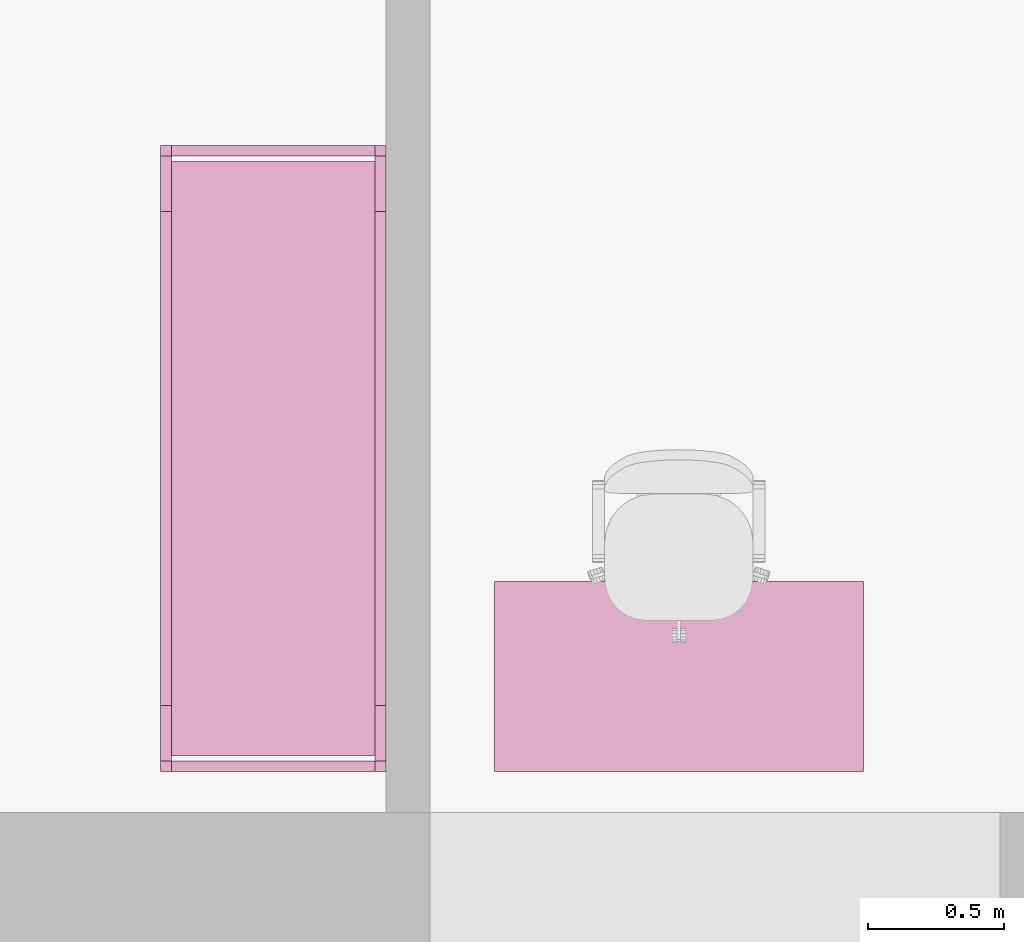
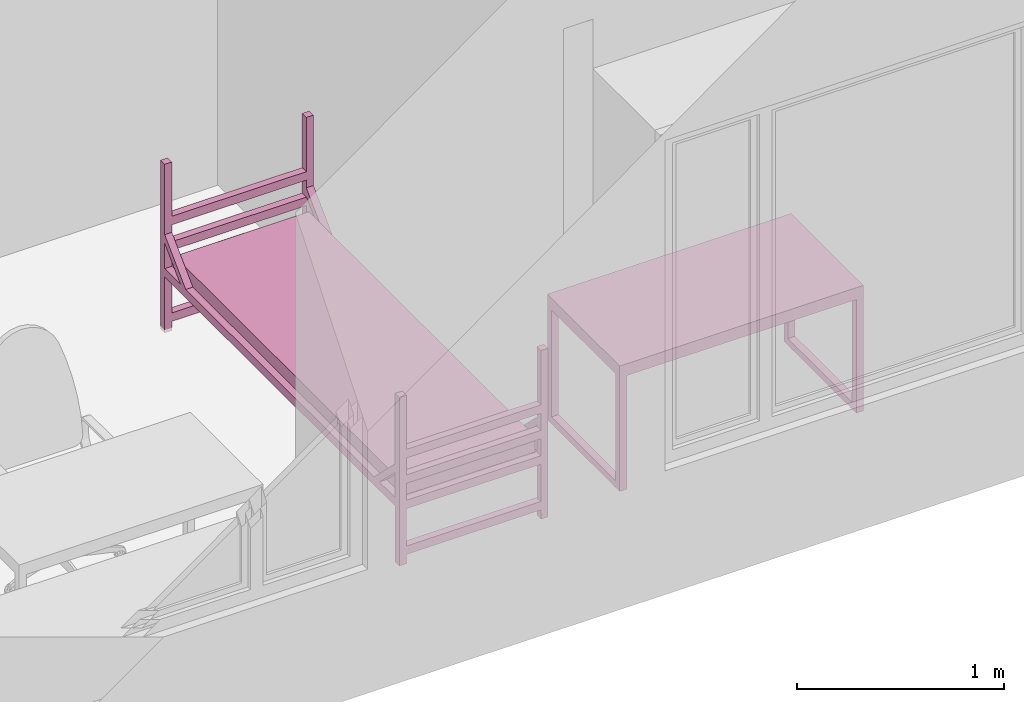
# One storey, part 30 of 48: 2 furnishings.
"""IFC2X3 building model written with IfcOpenShell, lengths in millimetres."""

from ifc_helpers import new_model, entity, si_unit, converted_unit, derived_unit, direction, frame, frame_2d, origin, place, context, subcontext, project, spatial, polyline, circle_curve, parameter, trimmed, segment, composite_curve, rectangle, outline, extrude, faceted_brep, source, transform, mapped, material, material_list, type_object, type_shapes, element, save


model = new_model("IFC2X3")

# Units and contexts
model_context = context("Model", 3, precision=0.01, world=origin(), true_north=direction((6.12303176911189e-17, 1.0)))
body_context = subcontext(model_context, "Body", "Model", "MODEL_VIEW")
ifc_project = project(units=[si_unit("LENGTHUNIT", "METRE", prefix="MILLI"), si_unit("AREAUNIT", "SQUARE_METRE"), si_unit("VOLUMEUNIT", "CUBIC_METRE"), converted_unit("PLANEANGLEUNIT", "DEGREE", entity("IfcRatioMeasure", 0.0174532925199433), si_unit("PLANEANGLEUNIT", "RADIAN"), dimensions=[0, 0, 0, 0, 0, 0, 0]), si_unit("MASSUNIT", "GRAM", prefix="KILO"), derived_unit("MASSDENSITYUNIT", [(si_unit("MASSUNIT", "GRAM", prefix="KILO"), 1), (si_unit("LENGTHUNIT", "METRE"), -3)]), si_unit("TIMEUNIT", "SECOND"), si_unit("FREQUENCYUNIT", "HERTZ"), si_unit("THERMODYNAMICTEMPERATUREUNIT", "DEGREE_CELSIUS"), derived_unit("THERMALTRANSMITTANCEUNIT", [(si_unit("MASSUNIT", "GRAM", prefix="KILO"), 1), (si_unit("THERMODYNAMICTEMPERATUREUNIT", "KELVIN"), -1), (si_unit("TIMEUNIT", "SECOND"), -3)]), derived_unit("VOLUMETRICFLOWRATEUNIT", [(si_unit("LENGTHUNIT", "METRE"), 3), (si_unit("TIMEUNIT", "SECOND"), -1)]), si_unit("ELECTRICCURRENTUNIT", "AMPERE"), si_unit("ELECTRICVOLTAGEUNIT", "VOLT"), si_unit("POWERUNIT", "WATT"), si_unit("FORCEUNIT", "NEWTON", prefix="KILO"), si_unit("ILLUMINANCEUNIT", "LUX"), si_unit("LUMINOUSFLUXUNIT", "LUMEN"), si_unit("LUMINOUSINTENSITYUNIT", "CANDELA"), derived_unit("USERDEFINED", [(si_unit("MASSUNIT", "GRAM", prefix="KILO"), -1), (si_unit("LENGTHUNIT", "METRE"), -2), (si_unit("TIMEUNIT", "SECOND"), 3), (si_unit("LUMINOUSFLUXUNIT", "LUMEN"), 1)]), derived_unit("LINEARVELOCITYUNIT", [(si_unit("LENGTHUNIT", "METRE"), 1), (si_unit("TIMEUNIT", "SECOND"), -1)]), si_unit("PRESSUREUNIT", "PASCAL"), derived_unit("USERDEFINED", [(si_unit("LENGTHUNIT", "METRE"), -2), (si_unit("MASSUNIT", "GRAM", prefix="KILO"), 1), (si_unit("TIMEUNIT", "SECOND"), -2)]), derived_unit("LINEARFORCEUNIT", [(si_unit("MASSUNIT", "GRAM", prefix="KILO"), 1), (si_unit("LENGTHUNIT", "METRE"), 1), (si_unit("TIMEUNIT", "SECOND"), -2), (si_unit("LENGTHUNIT", "METRE"), -1)]), derived_unit("PLANARFORCEUNIT", [(si_unit("MASSUNIT", "GRAM", prefix="KILO"), 1), (si_unit("LENGTHUNIT", "METRE"), 1), (si_unit("TIMEUNIT", "SECOND"), -2), (si_unit("LENGTHUNIT", "METRE"), -2)])], contexts=[model_context])

# Site, building, storey, space
site_placement = place(None, origin())
site = spatial("IfcSite", under=ifc_project, at=site_placement, Name="Default", CompositionType="ELEMENT")
building_placement = place(site_placement, origin())
building = spatial("IfcBuilding", under=site, at=building_placement, Name="SMA ARH", CompositionType="ELEMENT")
storey_placement = place(building_placement, frame((0.0, 0.0, 6600.0)))
storey = spatial("IfcBuildingStorey", under=building, at=storey_placement, Name="3 Korrus", CompositionType="ELEMENT", Elevation=6599.99999999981)
space_1_placement = place(storey_placement, origin())
space_1 = spatial("IfcSpace", under=storey, at=space_1_placement, Name="3-12", CompositionType="ELEMENT", InteriorOrExteriorSpace="INTERNAL")

# Furnishing
ifc_material_1 = material(Name="Madrats")
furniture_type_1 = type_object("IfcFurnitureType", Name="Kasarmu voodi ühekordne 2308x830:Kasarmu voodi ühekordne 2308x830", material=ifc_material_1)
shared_shape_1 = source(origin(), body_context, "Body", "SweptSolid", [
    extrude(rectangle(XDim=39.9999999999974, YDim=750.000000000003, at=frame_2d((-1.35003119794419e-13, -2.8421709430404e-14), x_axis=(1.0, 0.0))), frame((1.68638457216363, -1226.7969571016, 55.0), z_axis=(0.0, 0.0, 1.0), x_axis=(0.0, -1.0, 0.0)), (0.0, 0.0, 1.0), 49.9999999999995),
    extrude(rectangle(XDim=39.9999999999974, YDim=750.000000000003, at=frame_2d((-1.35003119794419e-13, -2.8421709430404e-14), x_axis=(1.0, 0.0))), frame((1.68638457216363, -1226.7969571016, 325.0), z_axis=(0.0, 0.0, 1.0), x_axis=(0.0, -1.0, 0.0)), (0.0, 0.0, 1.0), 49.9999999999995),
    extrude(rectangle(XDim=39.9999999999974, YDim=750.000000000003, at=frame_2d((-1.35003119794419e-13, -2.8421709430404e-14), x_axis=(1.0, 0.0))), frame((1.68638457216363, -1226.7969571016, 475.0), z_axis=(0.0, 0.0, 1.0), x_axis=(0.0, -1.0, 0.0)), (0.0, 0.0, 1.0), 49.9999999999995),
    extrude(rectangle(XDim=39.9999999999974, YDim=750.000000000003, at=frame_2d((-1.35003119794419e-13, -2.8421709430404e-14), x_axis=(1.0, 0.0))), frame((1.68638457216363, -1226.7969571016, 625.0), z_axis=(0.0, 0.0, 1.0), x_axis=(0.0, -1.0, 0.0)), (0.0, 0.0, 1.0), 50.0000000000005),
    extrude(rectangle(XDim=39.9999999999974, YDim=750.000000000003, at=frame_2d((1.35003119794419e-13, -2.8421709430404e-14), x_axis=(1.0, 0.0))), frame((1.68638457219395, 1041.2030428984, 55.0), z_axis=(0.0, 0.0, 1.0), x_axis=(0.0, -1.0, 0.0)), (0.0, 0.0, 1.0), 50.0000000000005),
    extrude(rectangle(XDim=39.9999999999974, YDim=750.000000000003, at=frame_2d((1.35003119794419e-13, -2.8421709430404e-14), x_axis=(1.0, 0.0))), frame((1.68638457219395, 1041.2030428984, 325.0), z_axis=(0.0, 0.0, 1.0), x_axis=(0.0, -1.0, 0.0)), (0.0, 0.0, 1.0), 50.0000000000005),
    extrude(rectangle(XDim=39.9999999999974, YDim=750.000000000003, at=frame_2d((1.35003119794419e-13, -2.8421709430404e-14), x_axis=(1.0, 0.0))), frame((1.68638457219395, 1041.2030428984, 475.0), z_axis=(0.0, 0.0, 1.0), x_axis=(0.0, -1.0, 0.0)), (0.0, 0.0, 1.0), 50.0000000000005),
    extrude(rectangle(XDim=39.9999999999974, YDim=750.000000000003, at=frame_2d((1.35003119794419e-13, -2.8421709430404e-14), x_axis=(1.0, 0.0))), frame((1.68638457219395, 1041.2030428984, 625.0), z_axis=(0.0, 0.0, 1.0), x_axis=(0.0, -1.0, 0.0)), (0.0, 0.0, 1.0), 49.9999999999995),
    extrude(outline(composite_curve([segment(trimmed(circle_curve(frame_2d((1085.0, -40.0), x_axis=(1.0, 0.0)), 10.0), [parameter(270.0)], [parameter(0.0)], True, "PARAMETER"), True, "CONTINUOUS"), segment(polyline([(1095.0, -40.0), (1095.0, 40.0)]), True, "CONTINUOUS"), segment(trimmed(circle_curve(frame_2d((1085.0, 40.0), x_axis=(1.0, 0.0)), 10.0), [parameter(0.0)], [parameter(90.0000000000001)], True, "PARAMETER"), True, "CONTINUOUS"), segment(polyline([(1085.0, 50.0), (-1085.0, 50.0)]), True, "CONTINUOUS"), segment(trimmed(circle_curve(frame_2d((-1085.0, 40.0), x_axis=(1.0, 0.0)), 10.0), [parameter(90.0000000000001)], [parameter(180.0)], True, "PARAMETER"), True, "CONTINUOUS"), segment(polyline([(-1095.0, 40.0), (-1095.0, -40.0)]), True, "CONTINUOUS"), segment(trimmed(circle_curve(frame_2d((-1085.0, -40.0), x_axis=(1.0, 0.0)), 10.0), [parameter(180.0)], [parameter(270.0)], True, "PARAMETER"), True, "CONTINUOUS"), segment(polyline([(-1085.0, -50.0), (1085.0, -50.0)]), True, "CONTINUOUS")], self_intersect=False)), frame((-373.313615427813, -92.7969571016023, 405.0), z_axis=(1.0, 0.0, 0.0), x_axis=(0.0, -1.0, 0.0)), (0.0, 0.0, 1.0), 750.000000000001),
    extrude(outline(polyline([(-1114.0, -100.0), (1114.0, -100.0), (1114.0, -50.0), (961.59199141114, -50.0), (1114.0, 100.0), (1114.0, 150.0), (910.789321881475, -50.0), (-910.789321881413, -50.0), (-1114.0, 150.0), (-1114.0, 100.0), (-961.591991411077, -50.0), (-1114.0, -50.0), (-1114.0, -100.0)])), frame((-413.313615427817, -92.7969571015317, 430.0), z_axis=(1.0, 0.0, 0.0), x_axis=(0.0, 1.0, 0.0)), (0.0, 0.0, 1.0), 39.9999999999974),
    extrude(outline(polyline([(-1114.0, -100.0), (1114.0, -100.0), (1114.0, -50.0), (961.591991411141, -50.0), (1114.0, 100.0), (1114.0, 150.0), (910.789321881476, -50.0), (-910.789321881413, -50.0), (-1114.0, 150.0), (-1114.0, 100.0), (-961.591991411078, -50.0), (-1114.0, -50.0), (-1114.0, -100.0)])), frame((376.686384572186, -92.796957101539, 430.0), z_axis=(1.0, 0.0, 0.0), x_axis=(0.0, 1.0, 0.0)), (0.0, 0.0, 1.0), 39.9999999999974),
    extrude(rectangle(XDim=39.9999999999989, YDim=39.9999999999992, at=frame_2d((-6.75015598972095e-14, 0.0), x_axis=(1.0, 0.0))), frame((396.686384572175, -1226.79695710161, 0.0), z_axis=(0.0, 0.0, 1.0), x_axis=(0.0, 1.0, 0.0)), (0.0, 0.0, 1.0), 995.0),
    extrude(rectangle(XDim=39.9999999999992, YDim=39.9999999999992, at=frame_2d((-1.35003119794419e-13, 0.0), x_axis=(1.0, 0.0))), frame((396.686384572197, 1041.20304289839, 0.0), z_axis=(0.0, 0.0, 1.0), x_axis=(0.0, 1.0, 0.0)), (0.0, 0.0, 1.0), 995.0),
    extrude(rectangle(XDim=40.0000000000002, YDim=39.9999999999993, at=frame_2d((-1.35003119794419e-13, 0.0), x_axis=(1.0, 0.0))), frame((-393.313615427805, 1041.2030428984, 0.0), z_axis=(0.0, 0.0, 1.0), x_axis=(0.0, 1.0, 0.0)), (0.0, 0.0, 1.0), 995.0),
    extrude(rectangle(XDim=39.9999999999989, YDim=39.9999999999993, at=frame_2d((-6.75015598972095e-14, 0.0), x_axis=(1.0, 0.0))), frame((-393.313615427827, -1226.7969571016, 0.0), z_axis=(0.0, 0.0, 1.0), x_axis=(0.0, 1.0, 0.0)), (0.0, 0.0, 1.0), 995.0),
])
type_shapes(furniture_type_1, [shared_shape_1])
furnishing_1_placement = place(space_1_placement, frame((15744.1863845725, 1211.20304289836, 0.0), z_axis=(0.0, 0.0, 1.0), x_axis=(-1.0, 0.0, 0.0)))
element("IfcFurnishingElement", 1, at=furnishing_1_placement, inside=space_1, type_object=furniture_type_1, material=ifc_material_1, Name="Kasarmu voodi ühekordne 2308x830:Kasarmu voodi ühekordne 2308x830", ObjectType="Kasarmu voodi ühekordne 2308x830:Kasarmu voodi ühekordne 2308x830", context=body_context, shape_type="MappedRepresentation", body=[
    mapped(shared_shape_1, transform((0.0, 0.0, 0.0), scale=1.0)),
])

# Space
space_2_placement = place(storey_placement, origin())
space_2 = spatial("IfcSpace", under=storey, at=space_2_placement, Name="3-9", CompositionType="ELEMENT", InteriorOrExteriorSpace="INTERNAL")

# Furnishing
ifc_material_2 = material(Name="<Unnamed>")
ifc_material_list = material_list([ifc_material_2, ifc_material_2])
furniture_type_2 = type_object("IfcFurnitureType", Name="kirjutuslaud 1360x700mm:kirjutuslaud 1360x700mm", material=ifc_material_list)
shared_shape_2 = source(origin(), body_context, "Body", "Brep", [
    faceted_brep([(680.0, -350.0, 720.0), (680.0, 350.0, 720.0), (680.0, 350.0, 750.0), (680.0, -350.0, 750.0), (-680.0, -350.0, 720.0), (-680.0, -350.0, 750.0), (-680.0, 350.0, 750.0), (-680.0, 350.0, 720.0)], [[[0, 1, 2, 3]], [[4, 5, 6, 7]], [[1, 0, 4, 7]], [[2, 1, 7, 6]], [[3, 2, 6, 5]], [[0, 3, 5, 4]]]),
    faceted_brep([(-640.0, -310.0, 680.0), (-640.0, 310.0, 680.0), (-640.0, 310.0, 720.0), (-640.0, -310.0, 720.0), (-680.0, -350.0, 720.0), (-680.0, 350.0, 720.0), (-680.0, 350.0, 10.0), (-680.0, -350.0, 10.0), (-680.0, 310.0, 680.0), (-680.0, -310.0, 680.0), (-680.0, -310.0, 50.0), (-680.0, 310.0, 50.0), (-640.0, -350.0, 10.0), (-640.0, -350.0, 680.0), (640.0, -350.0, 680.0), (640.0, -350.0, 10.0), (680.0, -350.0, 10.0), (680.0, -350.0, 720.0), (-640.0, 350.0, 10.0), (680.0, 350.0, 720.0), (680.0, 350.0, 10.0), (640.0, 350.0, 10.0), (640.0, 350.0, 680.0), (-640.0, 350.0, 680.0), (640.0, 310.0, 720.0), (640.0, -310.0, 720.0), (-640.0, 310.0, 50.0), (-640.0, -310.0, 50.0), (640.0, -310.0, 680.0), (640.0, 310.0, 680.0), (680.0, 310.0, 680.0), (680.0, 310.0, 50.0), (680.0, -310.0, 50.0), (680.0, -310.0, 680.0), (640.0, -310.0, 50.0), (640.0, 310.0, 50.0)], [[[0, 1, 2, 3]], [[4, 5, 6, 7], [8, 9, 10, 11]], [[4, 7, 12, 13, 14, 15, 16, 17]], [[18, 12, 7, 6]], [[6, 5, 19, 20, 21, 22, 23, 18]], [[19, 5, 4, 17], [2, 24, 25, 3]], [[26, 1, 8, 11]], [[27, 26, 11, 10]], [[0, 27, 10, 9]], [[1, 0, 9, 8]], [[14, 13, 0, 28]], [[24, 2, 1, 29]], [[3, 25, 28, 0]], [[17, 16, 20, 19], [30, 31, 32, 33]], [[21, 15, 14, 28, 34, 35, 29, 22]], [[20, 16, 15, 21]], [[31, 30, 29, 35]], [[32, 31, 35, 34]], [[33, 32, 34, 28]], [[30, 33, 28, 29]], [[29, 28, 25, 24]], [[29, 1, 23, 22]], [[12, 18, 23, 1, 26, 27, 0, 13]]]),
    faceted_brep([(-663.729456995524, -270.466136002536, 0.0), (-659.847171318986, -269.955023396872, 0.0), (-655.964885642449, -270.466136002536, 0.0), (-652.347171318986, -271.964642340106, 0.0), (-649.240569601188, -274.348421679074, 0.0), (-646.85679026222, -277.455023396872, 0.0), (-645.35828392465, -281.072737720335, 0.0), (-644.847171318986, -284.955023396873, 0.0), (-645.35828392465, -288.83730907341, 0.0), (-646.85679026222, -292.455023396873, 0.0), (-649.240569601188, -295.561625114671, 0.0), (-652.347171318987, -297.945404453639, 0.0), (-655.964885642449, -299.443910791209, 0.0), (-659.847171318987, -299.955023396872, 0.0), (-663.729456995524, -299.443910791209, 0.0), (-667.347171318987, -297.945404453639, 0.0), (-670.453773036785, -295.561625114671, 0.0), (-672.837552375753, -292.455023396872, 0.0), (-674.336058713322, -288.83730907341, 0.0), (-674.847171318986, -284.955023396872, 0.0), (-674.336058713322, -281.072737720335, 0.0), (-672.837552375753, -277.455023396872, 0.0), (-670.453773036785, -274.348421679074, 0.0), (-667.347171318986, -271.964642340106, 0.0), (-655.964885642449, -299.443910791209, 10.0), (-652.347171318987, -297.945404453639, 10.0), (-649.240569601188, -295.561625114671, 10.0), (-646.85679026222, -292.455023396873, 10.0), (-645.35828392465, -288.83730907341, 10.0), (-644.847171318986, -284.955023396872, 10.0), (-645.35828392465, -281.072737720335, 10.0), (-646.85679026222, -277.455023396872, 10.0), (-649.240569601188, -274.348421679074, 10.0), (-652.347171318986, -271.964642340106, 10.0), (-655.964885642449, -270.466136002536, 10.0), (-659.847171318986, -269.955023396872, 10.0), (-663.729456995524, -270.466136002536, 10.0), (-667.347171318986, -271.964642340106, 10.0), (-670.453773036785, -274.348421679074, 10.0), (-672.837552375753, -277.455023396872, 10.0), (-674.336058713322, -281.072737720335, 10.0), (-674.847171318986, -284.955023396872, 10.0), (-674.336058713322, -288.83730907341, 10.0), (-672.837552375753, -292.455023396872, 10.0), (-670.453773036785, -295.561625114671, 10.0), (-667.347171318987, -297.945404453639, 10.0), (-663.729456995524, -299.443910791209, 10.0), (-659.847171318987, -299.955023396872, 10.0)], [[[0, 1, 2, 3, 4, 5, 6, 7, 8, 9, 10, 11, 12, 13, 14, 15, 16, 17, 18, 19, 20, 21, 22, 23]], [[24, 25, 26, 27, 28, 29, 30, 31, 32, 33, 34, 35, 36, 37, 38, 39, 40, 41, 42, 43, 44, 45, 46, 47]], [[18, 42, 41, 19]], [[17, 43, 42, 18]], [[45, 44, 16, 15]], [[17, 16, 44, 43]], [[46, 45, 15, 14]], [[47, 46, 14, 13]], [[12, 24, 47, 13]], [[11, 25, 24, 12]], [[27, 26, 10, 9]], [[11, 10, 26, 25]], [[28, 27, 9, 8]], [[29, 28, 8, 7]], [[6, 30, 29, 7]], [[5, 31, 30, 6]], [[33, 32, 4, 3]], [[5, 4, 32, 31]], [[34, 33, 3, 2]], [[35, 34, 2, 1]], [[0, 36, 35, 1]], [[23, 37, 36, 0]], [[39, 38, 22, 21]], [[23, 22, 38, 37]], [[40, 39, 21, 20]], [[41, 40, 20, 19]]]),
    faceted_brep([(-655.964885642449, 270.466136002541, 10.0), (-652.347171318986, 271.964642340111, 10.0), (-649.240569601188, 274.348421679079, 10.0), (-646.85679026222, 277.455023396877, 10.0), (-645.35828392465, 281.07273772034, 10.0), (-644.847171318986, 284.955023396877, 10.0), (-645.35828392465, 288.837309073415, 10.0), (-646.85679026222, 292.455023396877, 10.0), (-649.240569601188, 295.561625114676, 10.0), (-652.347171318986, 297.945404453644, 10.0), (-655.964885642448, 299.443910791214, 10.0), (-659.847171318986, 299.955023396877, 10.0), (-663.729456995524, 299.443910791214, 10.0), (-667.347171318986, 297.945404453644, 10.0), (-670.453773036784, 295.561625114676, 10.0), (-672.837552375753, 292.455023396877, 10.0), (-674.336058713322, 288.837309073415, 10.0), (-674.847171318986, 284.955023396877, 10.0), (-674.336058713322, 281.07273772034, 10.0), (-672.837552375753, 277.455023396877, 10.0), (-670.453773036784, 274.348421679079, 10.0), (-667.347171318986, 271.964642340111, 10.0), (-663.729456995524, 270.466136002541, 10.0), (-659.847171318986, 269.955023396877, 10.0), (-655.964885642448, 299.443910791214, 0.0), (-652.347171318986, 297.945404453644, 0.0), (-649.240569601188, 295.561625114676, 0.0), (-646.85679026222, 292.455023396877, 0.0), (-645.35828392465, 288.837309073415, 0.0), (-644.847171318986, 284.955023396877, 0.0), (-645.35828392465, 281.07273772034, 0.0), (-646.85679026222, 277.455023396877, 0.0), (-649.240569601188, 274.348421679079, 0.0), (-652.347171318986, 271.964642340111, 0.0), (-655.964885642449, 270.466136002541, 0.0), (-659.847171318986, 269.955023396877, 0.0), (-663.729456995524, 270.466136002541, 0.0), (-667.347171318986, 271.964642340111, 0.0), (-670.453773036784, 274.348421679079, 0.0), (-672.837552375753, 277.455023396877, 0.0), (-674.336058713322, 281.07273772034, 0.0), (-674.847171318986, 284.955023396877, 0.0), (-674.336058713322, 288.837309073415, 0.0), (-672.837552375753, 292.455023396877, 0.0), (-670.453773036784, 295.561625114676, 0.0), (-667.347171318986, 297.945404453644, 0.0), (-663.729456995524, 299.443910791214, 0.0), (-659.847171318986, 299.955023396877, 0.0)], [[[0, 1, 2, 3, 4, 5, 6, 7, 8, 9, 10, 11, 12, 13, 14, 15, 16, 17, 18, 19, 20, 21, 22, 23]], [[24, 25, 26, 27, 28, 29, 30, 31, 32, 33, 34, 35, 36, 37, 38, 39, 40, 41, 42, 43, 44, 45, 46, 47]], [[40, 18, 17, 41]], [[39, 19, 18, 40]], [[21, 20, 38, 37]], [[39, 38, 20, 19]], [[22, 21, 37, 36]], [[23, 22, 36, 35]], [[34, 0, 23, 35]], [[33, 1, 0, 34]], [[3, 2, 32, 31]], [[33, 32, 2, 1]], [[4, 3, 31, 30]], [[5, 4, 30, 29]], [[28, 6, 5, 29]], [[27, 7, 6, 28]], [[9, 8, 26, 25]], [[27, 26, 8, 7]], [[10, 9, 25, 24]], [[11, 10, 24, 47]], [[46, 12, 11, 47]], [[45, 13, 12, 46]], [[15, 14, 44, 43]], [[45, 44, 14, 13]], [[16, 15, 43, 42]], [[17, 16, 42, 41]]]),
    faceted_brep([(656.270543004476, -270.466136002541, 0.0), (660.152828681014, -269.955023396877, 0.0), (664.035114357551, -270.466136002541, 0.0), (667.652828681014, -271.96464234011, 0.0), (670.759430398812, -274.348421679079, 0.0), (673.14320973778, -277.455023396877, 0.0), (674.64171607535, -281.072737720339, 0.0), (675.152828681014, -284.955023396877, 0.0), (674.64171607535, -288.837309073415, 0.0), (673.14320973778, -292.455023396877, 0.0), (670.759430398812, -295.561625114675, 0.0), (667.652828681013, -297.945404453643, 0.0), (664.035114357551, -299.443910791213, 0.0), (660.152828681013, -299.955023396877, 0.0), (656.270543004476, -299.443910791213, 0.0), (652.652828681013, -297.945404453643, 0.0), (649.546226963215, -295.561625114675, 0.0), (647.162447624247, -292.455023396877, 0.0), (645.663941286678, -288.837309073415, 0.0), (645.152828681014, -284.955023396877, 0.0), (645.663941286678, -281.072737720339, 0.0), (647.162447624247, -277.455023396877, 0.0), (649.546226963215, -274.348421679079, 0.0), (652.652828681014, -271.96464234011, 0.0), (664.035114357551, -299.443910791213, 10.0), (667.652828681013, -297.945404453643, 10.0), (670.759430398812, -295.561625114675, 10.0), (673.14320973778, -292.455023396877, 10.0), (674.64171607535, -288.837309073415, 10.0), (675.152828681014, -284.955023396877, 10.0), (674.64171607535, -281.072737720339, 10.0), (673.14320973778, -277.455023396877, 10.0), (670.759430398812, -274.348421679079, 10.0), (667.652828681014, -271.96464234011, 10.0), (664.035114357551, -270.466136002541, 10.0), (660.152828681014, -269.955023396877, 10.0), (656.270543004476, -270.466136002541, 10.0), (652.652828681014, -271.96464234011, 10.0), (649.546226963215, -274.348421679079, 10.0), (647.162447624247, -277.455023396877, 10.0), (645.663941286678, -281.072737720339, 10.0), (645.152828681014, -284.955023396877, 10.0), (645.663941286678, -288.837309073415, 10.0), (647.162447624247, -292.455023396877, 10.0), (649.546226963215, -295.561625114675, 10.0), (652.652828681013, -297.945404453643, 10.0), (656.270543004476, -299.443910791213, 10.0), (660.152828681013, -299.955023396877, 10.0)], [[[0, 1, 2, 3, 4, 5, 6, 7, 8, 9, 10, 11, 12, 13, 14, 15, 16, 17, 18, 19, 20, 21, 22, 23]], [[24, 25, 26, 27, 28, 29, 30, 31, 32, 33, 34, 35, 36, 37, 38, 39, 40, 41, 42, 43, 44, 45, 46, 47]], [[18, 42, 41, 19]], [[17, 43, 42, 18]], [[45, 44, 16, 15]], [[17, 16, 44, 43]], [[46, 45, 15, 14]], [[47, 46, 14, 13]], [[12, 24, 47, 13]], [[11, 25, 24, 12]], [[27, 26, 10, 9]], [[11, 10, 26, 25]], [[28, 27, 9, 8]], [[29, 28, 8, 7]], [[6, 30, 29, 7]], [[5, 31, 30, 6]], [[33, 32, 4, 3]], [[5, 4, 32, 31]], [[34, 33, 3, 2]], [[35, 34, 2, 1]], [[0, 36, 35, 1]], [[23, 37, 36, 0]], [[39, 38, 22, 21]], [[23, 22, 38, 37]], [[40, 39, 21, 20]], [[41, 40, 20, 19]]]),
    faceted_brep([(664.035114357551, 270.466136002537, 10.0), (667.652828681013, 271.964642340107, 10.0), (670.759430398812, 274.348421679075, 10.0), (673.14320973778, 277.455023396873, 10.0), (674.64171607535, 281.072737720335, 10.0), (675.152828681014, 284.955023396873, 10.0), (674.64171607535, 288.837309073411, 10.0), (673.14320973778, 292.455023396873, 10.0), (670.759430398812, 295.561625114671, 10.0), (667.652828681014, 297.94540445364, 10.0), (664.035114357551, 299.443910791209, 10.0), (660.152828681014, 299.955023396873, 10.0), (656.270543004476, 299.443910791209, 10.0), (652.652828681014, 297.94540445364, 10.0), (649.546226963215, 295.561625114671, 10.0), (647.162447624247, 292.455023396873, 10.0), (645.663941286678, 288.837309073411, 10.0), (645.152828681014, 284.955023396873, 10.0), (645.663941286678, 281.072737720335, 10.0), (647.162447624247, 277.455023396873, 10.0), (649.546226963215, 274.348421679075, 10.0), (652.652828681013, 271.964642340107, 10.0), (656.270543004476, 270.466136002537, 10.0), (660.152828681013, 269.955023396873, 10.0), (664.035114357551, 299.443910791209, 0.0), (667.652828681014, 297.94540445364, 0.0), (670.759430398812, 295.561625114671, 0.0), (673.14320973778, 292.455023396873, 0.0), (674.64171607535, 288.837309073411, 0.0), (675.152828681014, 284.955023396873, 0.0), (674.64171607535, 281.072737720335, 0.0), (673.14320973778, 277.455023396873, 0.0), (670.759430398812, 274.348421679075, 0.0), (667.652828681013, 271.964642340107, 0.0), (664.035114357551, 270.466136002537, 0.0), (660.152828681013, 269.955023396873, 0.0), (656.270543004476, 270.466136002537, 0.0), (652.652828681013, 271.964642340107, 0.0), (649.546226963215, 274.348421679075, 0.0), (647.162447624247, 277.455023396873, 0.0), (645.663941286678, 281.072737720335, 0.0), (645.152828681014, 284.955023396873, 0.0), (645.663941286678, 288.837309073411, 0.0), (647.162447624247, 292.455023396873, 0.0), (649.546226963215, 295.561625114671, 0.0), (652.652828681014, 297.94540445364, 0.0), (656.270543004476, 299.443910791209, 0.0), (660.152828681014, 299.955023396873, 0.0)], [[[0, 1, 2, 3, 4, 5, 6, 7, 8, 9, 10, 11, 12, 13, 14, 15, 16, 17, 18, 19, 20, 21, 22, 23]], [[24, 25, 26, 27, 28, 29, 30, 31, 32, 33, 34, 35, 36, 37, 38, 39, 40, 41, 42, 43, 44, 45, 46, 47]], [[40, 18, 17, 41]], [[39, 19, 18, 40]], [[21, 20, 38, 37]], [[39, 38, 20, 19]], [[22, 21, 37, 36]], [[23, 22, 36, 35]], [[34, 0, 23, 35]], [[33, 1, 0, 34]], [[3, 2, 32, 31]], [[33, 32, 2, 1]], [[4, 3, 31, 30]], [[5, 4, 30, 29]], [[28, 6, 5, 29]], [[27, 7, 6, 28]], [[9, 8, 26, 25]], [[27, 26, 8, 7]], [[10, 9, 25, 24]], [[11, 10, 24, 47]], [[46, 12, 11, 47]], [[45, 13, 12, 46]], [[15, 14, 44, 43]], [[45, 44, 14, 13]], [[16, 15, 43, 42]], [[17, 16, 42, 41]]]),
])
type_shapes(furniture_type_2, [shared_shape_2])
furnishing_2_placement = place(space_2_placement, frame((17237.0, 500.0, 0.0)))
element("IfcFurnishingElement", 2, at=furnishing_2_placement, inside=space_2, type_object=furniture_type_2, Name="kirjutuslaud 1360x700mm:kirjutuslaud 1360x700mm", ObjectType="kirjutuslaud 1360x700mm:kirjutuslaud 1360x700mm", context=body_context, shape_type="MappedRepresentation", body=[
    mapped(shared_shape_2, transform((0.0, 0.0, 0.0), scale=1.0)),
])

save(model, "model.ifc")
